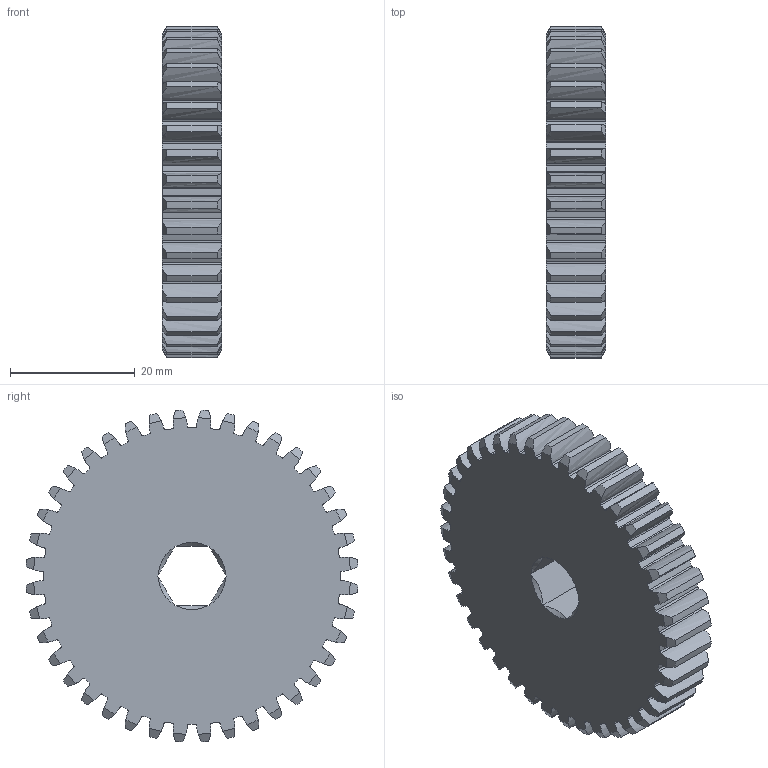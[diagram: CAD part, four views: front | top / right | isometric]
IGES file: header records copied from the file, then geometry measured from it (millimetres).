
Global section: file name: No Iges File Name specified; native system: AutoDesk Inventor R6.0; preprocessor: AutoDesk Inventor Iges Exporter R6.0; author: No Author specified; organization: No Organization specified; date: 20080103.190727; units: inch
Bounding box: 9.53 x 53.25 x 53.25 mm (x, y, z)
Surface area: 7202.1 mm2 (no closed solid volume)
Topology: 0 solids, 0 shells, 340 faces, 2052 edges, 2052 vertices
Faces by surface type: revolution 332, plane 8
